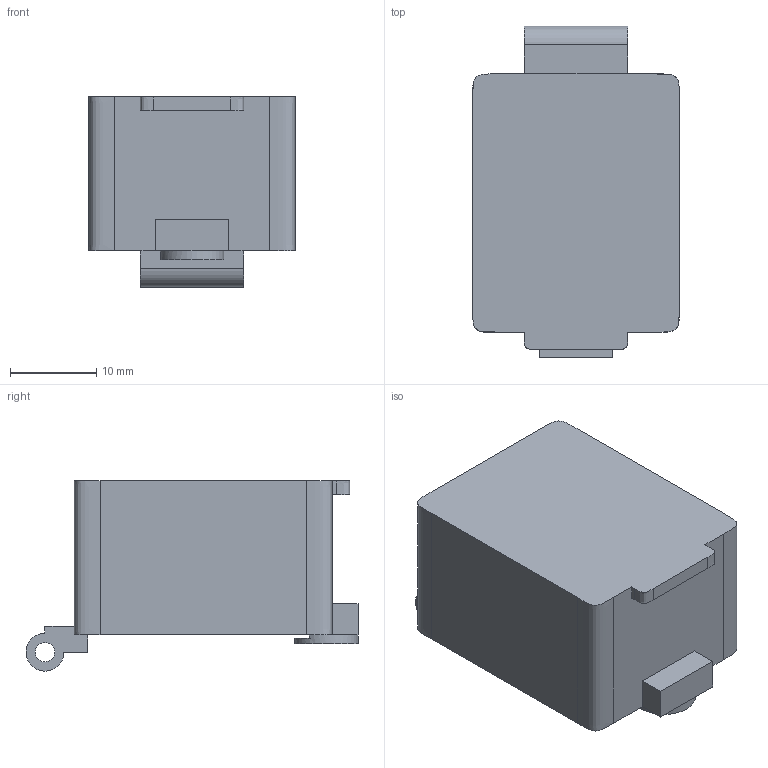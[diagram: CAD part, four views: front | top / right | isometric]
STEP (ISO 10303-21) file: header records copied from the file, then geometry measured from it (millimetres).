
FILE_DESCRIPTION(('Open CASCADE Model'),'2;1');
FILE_NAME('Open CASCADE Shape Model','2026-10-14T06:59:41',('Author'),( 'Open CASCADE'),'Open CASCADE STEP processor 7.9','Open CASCADE 7.9' ,'Unknown');
FILE_SCHEMA(('AUTOMOTIVE_DESIGN { 1 0 10303 214 1 1 1 1 }'));
Length unit declared in the file: millimetre
Products named in the file (1): Open CASCADE STEP translator 7.9 3
Bounding box: 24 x 38.58 x 22.1 mm (x, y, z)
Volume: 4181.8 mm3; surface area: 5519.9 mm2
Topology: 1 solids, 1 shells, 48 faces, 137 edges, 91 vertices
Faces by surface type: plane 34, extrusion 10, cylinder 4
Full cylindrical faces by diameter (mm): 2.25 x1, 7.35 x1
Entity records: 6233 total; most frequent: CARTESIAN_POINT 3563, DIRECTION 456, VECTOR 355, LINE 345, ORIENTED_EDGE 274, PCURVE 274, DEFINITIONAL_REPRESENTATION 274, EDGE_CURVE 137
